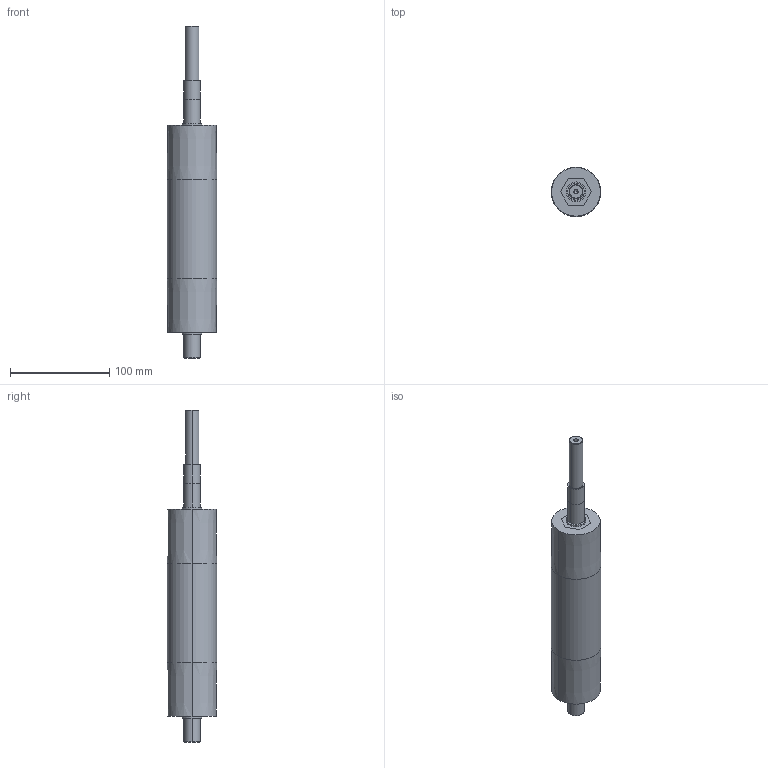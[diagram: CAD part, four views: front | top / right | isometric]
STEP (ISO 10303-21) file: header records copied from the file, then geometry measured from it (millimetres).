
FILE_DESCRIPTION (( 'STEP AP203' ), '1' );
FILE_NAME ('1000.50.00.011.STEP', '2013-01-29T12:12:38', ( 'Alusic' ), ( 'Alusic' ), 'SwSTEP 2.0', 'SolidWorks 2011', '' );
FILE_SCHEMA (( 'CONFIG_CONTROL_DESIGN' ));
Length unit declared in the file: millimetre
Products named in the file (1): 1000.50.00.011
Bounding box: 50 x 50 x 335 mm (x, y, z)
Volume: 429970.2 mm3; surface area: 82253.6 mm2
Topology: 2 solids, 2 shells, 53 faces, 116 edges, 73 vertices
Faces by surface type: plane 25, cylinder 18, cone 10
Entity records: 1575 total; most frequent: CARTESIAN_POINT 303, DIRECTION 262, ORIENTED_EDGE 228, EDGE_CURVE 114, AXIS2_PLACEMENT_3D 96, VERTEX_POINT 73, LINE 70, VECTOR 70
